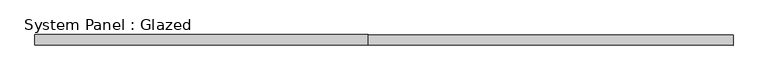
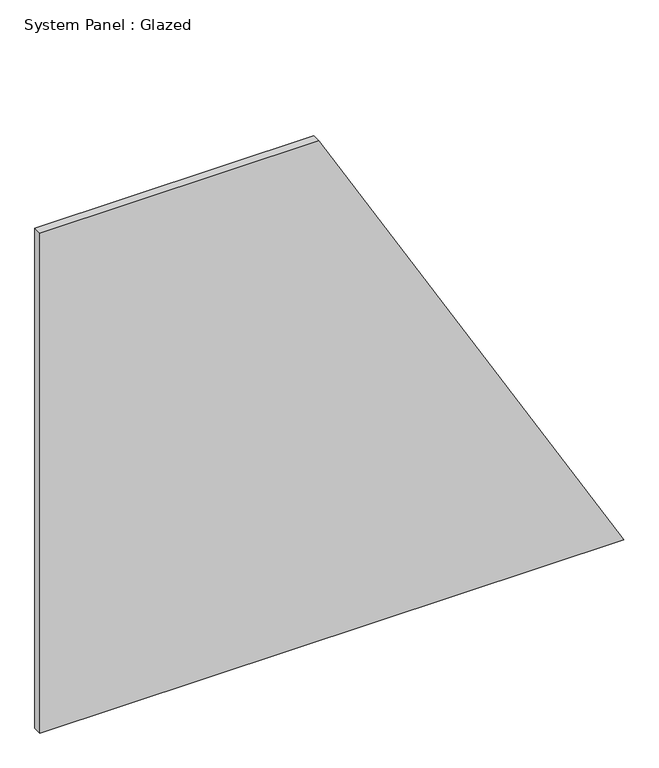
"""IFC4 building model written with IfcOpenShell, lengths in millimetres: plate geometry, System Panel : Glazed."""

from ifc_helpers import new_model, si_unit, frame, origin, place, context, project, spatial, polyline, outline, extrude, source, transform, mapped, element, save


def system_panel_glazed_f12b8896(model_context):
    return source(origin(), model_context, "Body", "SweptSolid", [
        extrude(outline(polyline([(0.0, -841.991952), (0.0, 841.991952), (1524.0, -37.8898582), (1524.0, -841.991952), (0.0, -841.991952)])), frame((0.0, 19.05, 0.0), z_axis=(0.0, 1.0, 0.0), x_axis=(0.0, 0.0, 1.0)), (0.0, 0.0, 1.0), 25.4),
    ])


if __name__ == "__main__":
    model = new_model("IFC4")
    model_context = context("Model", 3, world=origin())
    ifc_project = project(units=[si_unit("LENGTHUNIT", "METRE", prefix="MILLI")], contexts=[model_context])
    site = spatial("IfcSite", under=ifc_project)
    building = spatial("IfcBuilding", under=site)
    placement = place(None, origin())
    system_panel_glazed_shape = system_panel_glazed_f12b8896(model_context)
    element("IfcPlate", 1, ObjectType="System Panel : Glazed", at=placement, inside=building, context=model_context, shape_type="MappedRepresentation", body=[
        mapped(system_panel_glazed_shape, transform((0.0, 0.0, 0.0), x_axis=(1.0, 0.0, 0.0), y_axis=(0.0, 1.0, 0.0), z_axis=(0.0, 0.0, 1.0))),
    ])
    save(model, "model.ifc")
